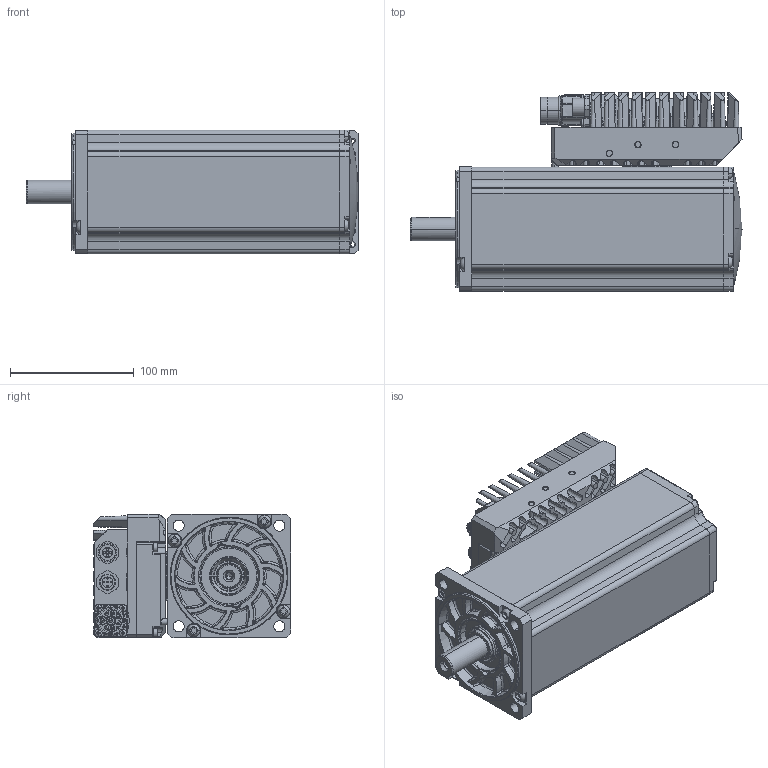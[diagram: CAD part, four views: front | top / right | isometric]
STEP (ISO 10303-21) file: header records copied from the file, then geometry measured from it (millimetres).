
FILE_DESCRIPTION((''),'2;1');
FILE_NAME('60892N-0_SW0001','2015-09-09T',('hegenwang'),(''),'PRO/ENGINEER BY PARAMETRIC TECHNOLOGY CORPORATION, 2010430','PRO/ENGINEER BY PARAMETRIC TECHNOLOGY CORPORATION, 2010430','');
FILE_SCHEMA(('AUTOMOTIVE_DESIGN_CC2 { 1 2 10303 214 -1 1 5 2 }'));
Products named in the file (1): 60892N-0_SW0001
Bounding box: 268 x 159.8 x 100 mm (x, y, z)
Surface area: 245490.4 mm2 (no closed solid volume)
Topology: 0 solids, 116 shells, 1737 faces, 5352 edges, 3765 vertices
Faces by surface type: plane 766, cone 381, cylinder 334, bspline 95, torus 87, sphere 68, extrusion 4, revolution 2
Entity records: 96889 total; most frequent: CARTESIAN_POINT 24657, DIRECTION 9635, ORIENTED_EDGE 9276, PRESENTATION_STYLE_ASSIGNMENT 6601, STYLED_ITEM 5353, CURVE_STYLE 5314, EDGE_CURVE 5312, VERTEX_POINT 3765
